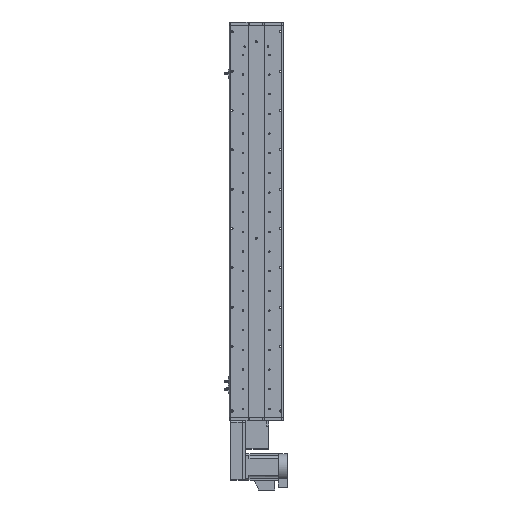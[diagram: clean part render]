
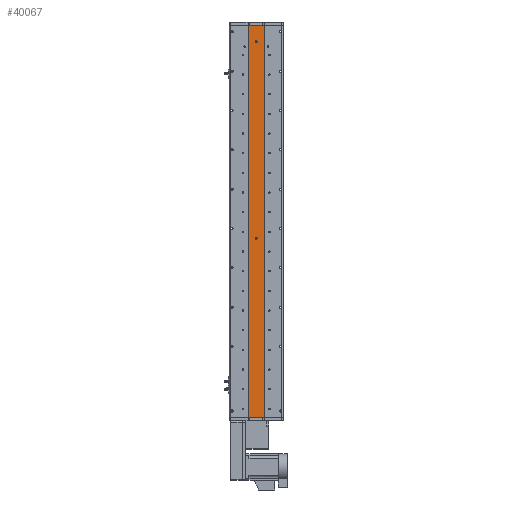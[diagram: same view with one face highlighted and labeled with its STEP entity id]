
A CAD part, front view. The second image highlights one B-rep face of the part: STEP entity #40067.
In plain terms, the highlighted planar face has unit normal (0, -1, 0).
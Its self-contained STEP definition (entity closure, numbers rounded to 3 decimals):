
#1462 = EDGE_CURVE ( 'NONE', #32986, #21226, #26905, .T. ) ;
#1808 = EDGE_CURVE ( 'NONE', #7859, #50312, #6542, .T. ) ;
#4621 = DIRECTION ( 'NONE',  ( 0., 0., -1. ) ) ;
#5417 = FACE_BOUND ( 'NONE', #7601, .T. ) ;
#5545 = CARTESIAN_POINT ( 'NONE',  ( 0., 1., -48.5 ) ) ;
#6542 = LINE ( 'NONE', #33220, #18240 ) ;
#7601 = EDGE_LOOP ( 'NONE', ( #43273, #38023 ) ) ;
#7859 = VERTEX_POINT ( 'NONE', #53870 ) ;
#7941 = EDGE_LOOP ( 'NONE', ( #37357, #24560, #38370, #61321 ) ) ;
#8102 = LINE ( 'NONE', #45255, #56648 ) ;
#8190 = AXIS2_PLACEMENT_3D ( 'NONE', #19686, #54717, #24690 ) ;
#9492 = VERTEX_POINT ( 'NONE', #24669 ) ;
#9753 = DIRECTION ( 'NONE',  ( 0., 0., -1. ) ) ;
#10219 = VERTEX_POINT ( 'NONE', #21083 ) ;
#10838 = DIRECTION ( 'NONE',  ( 0., -1., 0. ) ) ;
#10988 = EDGE_CURVE ( 'NONE', #12693, #48750, #18251, .T. ) ;
#12693 = VERTEX_POINT ( 'NONE', #18832 ) ;
#14009 = FACE_BOUND ( 'NONE', #25981, .T. ) ;
#15261 = DIRECTION ( 'NONE',  ( 1., 0., 0. ) ) ;
#15558 = CARTESIAN_POINT ( 'NONE',  ( 0., 1., -54.5 ) ) ;
#18240 = VECTOR ( 'NONE', #28374, 1000. ) ;
#18251 = CIRCLE ( 'NONE', #43027, 3. ) ;
#18832 = CARTESIAN_POINT ( 'NONE',  ( 0., 1., 545.5 ) ) ;
#19389 = LINE ( 'NONE', #24967, #57807 ) ;
#19686 = CARTESIAN_POINT ( 'NONE',  ( 0., 1., -51.5 ) ) ;
#19993 = DIRECTION ( 'NONE',  ( 1., 0., 0. ) ) ;
#21083 = CARTESIAN_POINT ( 'NONE',  ( -25., 1., -598.5 ) ) ;
#21226 = VERTEX_POINT ( 'NONE', #5545 ) ;
#22557 = ORIENTED_EDGE ( 'NONE', *, *, #10988, .F. ) ;
#23699 = DIRECTION ( 'NONE',  ( 0., 0., 1. ) ) ;
#24560 = ORIENTED_EDGE ( 'NONE', *, *, #1808, .F. ) ;
#24669 = CARTESIAN_POINT ( 'NONE',  ( -25., 1., 598.5 ) ) ;
#24690 = DIRECTION ( 'NONE',  ( 0., 0., -1. ) ) ;
#24967 = CARTESIAN_POINT ( 'NONE',  ( 25., 1., 598.5 ) ) ;
#25981 = EDGE_LOOP ( 'NONE', ( #22557, #38891 ) ) ;
#26032 = CARTESIAN_POINT ( 'NONE',  ( 25., 1., -598.5 ) ) ;
#26905 = CIRCLE ( 'NONE', #56516, 3. ) ;
#27291 = CARTESIAN_POINT ( 'NONE',  ( 0., 1., 548.5 ) ) ;
#28374 = DIRECTION ( 'NONE',  ( 0., 0., -1. ) ) ;
#28471 = CARTESIAN_POINT ( 'NONE',  ( 25., 1., 598.5 ) ) ;
#32335 = DIRECTION ( 'NONE',  ( 0., 0., -1. ) ) ;
#32986 = VERTEX_POINT ( 'NONE', #15558 ) ;
#33220 = CARTESIAN_POINT ( 'NONE',  ( 25., 1., 598.5 ) ) ;
#34622 = DIRECTION ( 'NONE',  ( 0., -1., 0. ) ) ;
#36475 = EDGE_CURVE ( 'NONE', #21226, #32986, #46290, .T. ) ;
#37357 = ORIENTED_EDGE ( 'NONE', *, *, #43293, .T. ) ;
#38023 = ORIENTED_EDGE ( 'NONE', *, *, #36475, .F. ) ;
#38370 = ORIENTED_EDGE ( 'NONE', *, *, #60766, .F. ) ;
#38891 = ORIENTED_EDGE ( 'NONE', *, *, #50444, .F. ) ;
#40067 = ADVANCED_FACE ( 'NONE', ( #14009, #5417, #53990 ), #48669, .F. ) ;
#40189 = LINE ( 'NONE', #44754, #53514 ) ;
#40824 = CARTESIAN_POINT ( 'NONE',  ( 0., 1., 548.5 ) ) ;
#42900 = CIRCLE ( 'NONE', #62662, 3. ) ;
#43027 = AXIS2_PLACEMENT_3D ( 'NONE', #40824, #10838, #45872 ) ;
#43273 = ORIENTED_EDGE ( 'NONE', *, *, #1462, .F. ) ;
#43293 = EDGE_CURVE ( 'NONE', #10219, #50312, #8102, .T. ) ;
#44754 = CARTESIAN_POINT ( 'NONE',  ( -25., 1., 598.5 ) ) ;
#45255 = CARTESIAN_POINT ( 'NONE',  ( 25., 1., -598.5 ) ) ;
#45872 = DIRECTION ( 'NONE',  ( 0., 0., -1. ) ) ;
#46290 = CIRCLE ( 'NONE', #8190, 3. ) ;
#47086 = CARTESIAN_POINT ( 'NONE',  ( 0., 1., 551.5 ) ) ;
#48669 = PLANE ( 'NONE',  #63312 ) ;
#48750 = VERTEX_POINT ( 'NONE', #47086 ) ;
#50312 = VERTEX_POINT ( 'NONE', #26032 ) ;
#50444 = EDGE_CURVE ( 'NONE', #48750, #12693, #42900, .T. ) ;
#52622 = EDGE_CURVE ( 'NONE', #9492, #10219, #40189, .T. ) ;
#53514 = VECTOR ( 'NONE', #9753, 1000. ) ;
#53716 = DIRECTION ( 'NONE',  ( 0., 1., 0. ) ) ;
#53870 = CARTESIAN_POINT ( 'NONE',  ( 25., 1., 598.5 ) ) ;
#53990 = FACE_OUTER_BOUND ( 'NONE', #7941, .T. ) ;
#54717 = DIRECTION ( 'NONE',  ( 0., -1., 0. ) ) ;
#56516 = AXIS2_PLACEMENT_3D ( 'NONE', #64666, #34622, #4621 ) ;
#56648 = VECTOR ( 'NONE', #15261, 1000. ) ;
#57807 = VECTOR ( 'NONE', #19993, 1000. ) ;
#60766 = EDGE_CURVE ( 'NONE', #9492, #7859, #19389, .T. ) ;
#61321 = ORIENTED_EDGE ( 'NONE', *, *, #52622, .T. ) ;
#62419 = DIRECTION ( 'NONE',  ( 0., -1., 0. ) ) ;
#62662 = AXIS2_PLACEMENT_3D ( 'NONE', #27291, #62419, #32335 ) ;
#63312 = AXIS2_PLACEMENT_3D ( 'NONE', #28471, #53716, #23699 ) ;
#64666 = CARTESIAN_POINT ( 'NONE',  ( 0., 1., -51.5 ) ) ;
